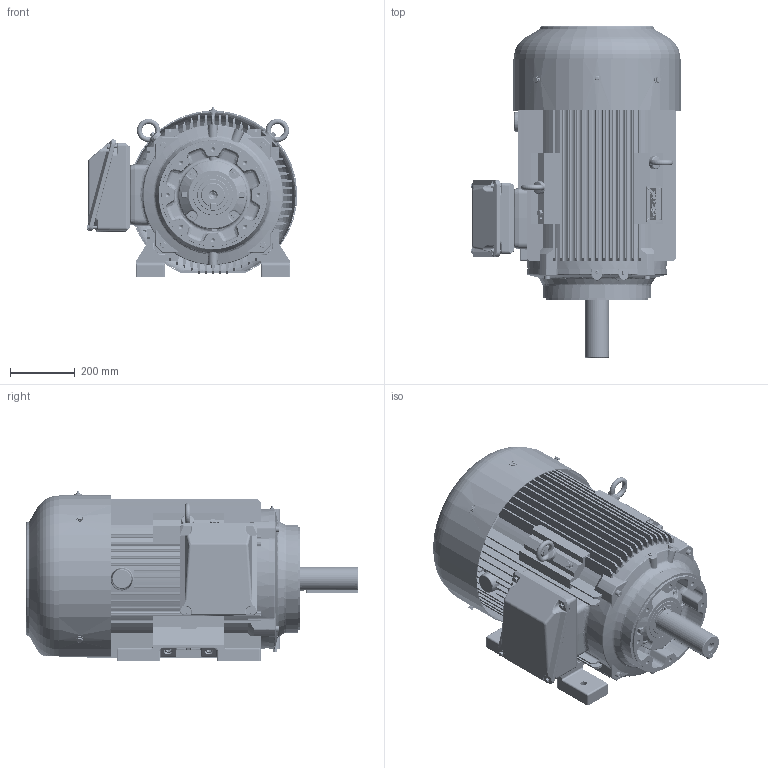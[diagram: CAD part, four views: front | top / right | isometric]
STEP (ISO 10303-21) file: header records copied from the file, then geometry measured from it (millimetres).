
FILE_DESCRIPTION(/* description */ ('Unknown','CAx-IF Rec.Pracs.---Representation and Presentation of Product Manufacturing Information (PMI)---4.0---2014-10-13','CAx-IF Rec.Pracs.---3D Tessellated Geometry---0.4---2014-09-14','2;1'),/* implementation_level */ '2;1');
FILE_NAME(/* name */ 'Silnik SIE400TCL4_6',/* time_stamp */ '2024-07-08T09:27:39+02:00',/* author */ ('Unknown'),/* organization */ ('Unknown'),/* preprocessor_version */ 'ST-DEVELOPER v16.7',/* originating_system */ 'DEX',/* authorisation */ $);
FILE_SCHEMA (('AP242_MANAGED_MODEL_BASED_3D_ENGINEERING_MIM_LF { 1 0 10303 442 20130219 1 4 }'));
Length unit declared in the file: millimetre
Products named in the file (1): Silnik SIE400TCL4_6
Bounding box: 648.98 x 1023.69 x 526 mm (x, y, z)
Volume: 87163949.2 mm3; surface area: 7781728 mm2
Topology: 11 solids, 70 shells, 10308 faces, 26876 edges, 16747 vertices
Faces by surface type: plane 5538, cylinder 2213, bspline 1061, torus 869, cone 404, sphere 223
Full cylindrical faces by diameter (mm): 1.6 x2, 2.459 x2, 2.5 x4, 3 x17, 3.4 x4, 4.917 x2, 5 x6, 6 x5, 6.2 x14, 6.3 x1, 6.35 x3, 6.4 x2, 6.466 x8, 6.647 x8, 8 x31, 8.376 x5, 8.4 x2, 8.5 x5, 8.917 x1, 9 x12, 9.853 x8, 10 x23, 10.106 x10, 10.5 x5, 11.63 x5, 12 x20, 13 x8, 13.546 x4, 13.835 x12, 14 x9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
Entity records: 421209 total; most frequent: CARTESIAN_POINT 105121, ORIENTED_EDGE 50866, DIRECTION 47915, EDGE_CURVE 25433, VERTEX_POINT 16319, AXIS2_PLACEMENT_3D 16232, LINE 15451, VECTOR 15451
